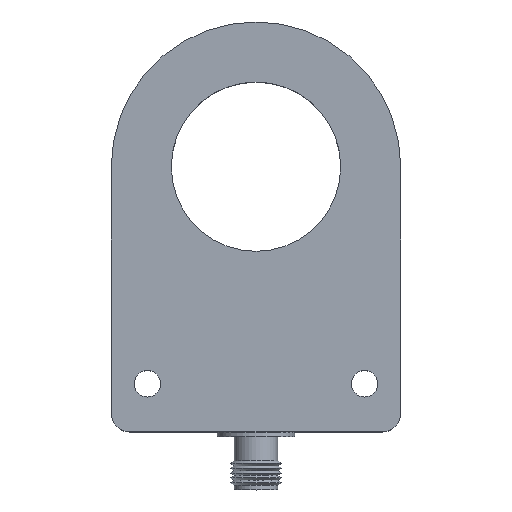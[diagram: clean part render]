
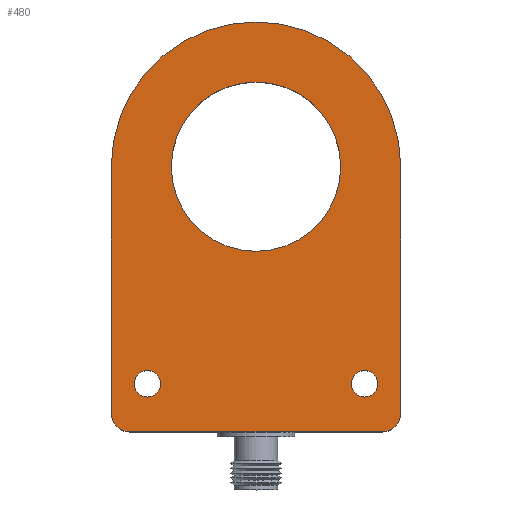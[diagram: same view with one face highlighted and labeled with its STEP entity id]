
A CAD part, top view. The second image highlights one B-rep face of the part: STEP entity #480.
In plain terms, the highlighted planar face has unit normal (0, 0, 1).
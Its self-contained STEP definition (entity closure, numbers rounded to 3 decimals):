
#39 = VERTEX_POINT('',#40);
#40 = CARTESIAN_POINT('',(-30.,0.,20.));
#47 = PLANE('',#48);
#48 = AXIS2_PLACEMENT_3D('',#49,#50,#51);
#49 = CARTESIAN_POINT('',(-30.,0.,0.));
#50 = DIRECTION('',(1.,0.,0.));
#51 = DIRECTION('',(0.,-1.,0.));
#59 = CYLINDRICAL_SURFACE('',#60,30.);
#60 = AXIS2_PLACEMENT_3D('',#61,#62,#63);
#61 = CARTESIAN_POINT('',(0.,0.,0.));
#62 = DIRECTION('',(-0.,-0.,-1.));
#63 = DIRECTION('',(1.,0.,0.));
#71 = EDGE_CURVE('',#39,#72,#74,.T.);
#72 = VERTEX_POINT('',#73);
#73 = CARTESIAN_POINT('',(-30.,-51.,20.));
#74 = SURFACE_CURVE('',#75,(#79,#86),.PCURVE_S1.);
#75 = LINE('',#76,#77);
#76 = CARTESIAN_POINT('',(-30.,0.,20.));
#77 = VECTOR('',#78,1.);
#78 = DIRECTION('',(0.,-1.,0.));
#79 = PCURVE('',#47,#80);
#80 = DEFINITIONAL_REPRESENTATION('',(#81),#85);
#81 = LINE('',#82,#83);
#82 = CARTESIAN_POINT('',(0.,-20.));
#83 = VECTOR('',#84,1.);
#84 = DIRECTION('',(1.,0.));
#85 = ( GEOMETRIC_REPRESENTATION_CONTEXT(2) 
PARAMETRIC_REPRESENTATION_CONTEXT() REPRESENTATION_CONTEXT('2D SPACE',''
  ) );
#86 = PCURVE('',#87,#92);
#87 = PLANE('',#88);
#88 = AXIS2_PLACEMENT_3D('',#89,#90,#91);
#89 = CARTESIAN_POINT('',(0.,-17.809,20.));
#90 = DIRECTION('',(0.,0.,1.));
#91 = DIRECTION('',(1.,0.,0.));
#92 = DEFINITIONAL_REPRESENTATION('',(#93),#97);
#93 = LINE('',#94,#95);
#94 = CARTESIAN_POINT('',(-30.,17.809));
#95 = VECTOR('',#96,1.);
#96 = DIRECTION('',(0.,-1.));
#97 = ( GEOMETRIC_REPRESENTATION_CONTEXT(2) 
PARAMETRIC_REPRESENTATION_CONTEXT() REPRESENTATION_CONTEXT('2D SPACE',''
  ) );
#115 = CYLINDRICAL_SURFACE('',#116,4.);
#116 = AXIS2_PLACEMENT_3D('',#117,#118,#119);
#117 = CARTESIAN_POINT('',(-26.,-51.,0.));
#118 = DIRECTION('',(-0.,-0.,-1.));
#119 = DIRECTION('',(1.,0.,0.));
#159 = VERTEX_POINT('',#160);
#160 = CARTESIAN_POINT('',(30.,0.,20.));
#174 = PLANE('',#175);
#175 = AXIS2_PLACEMENT_3D('',#176,#177,#178);
#176 = CARTESIAN_POINT('',(30.,-51.,0.));
#177 = DIRECTION('',(-1.,0.,0.));
#178 = DIRECTION('',(0.,1.,0.));
#186 = EDGE_CURVE('',#159,#39,#187,.T.);
#187 = SURFACE_CURVE('',#188,(#193,#200),.PCURVE_S1.);
#188 = CIRCLE('',#189,30.);
#189 = AXIS2_PLACEMENT_3D('',#190,#191,#192);
#190 = CARTESIAN_POINT('',(0.,0.,20.));
#191 = DIRECTION('',(0.,0.,1.));
#192 = DIRECTION('',(1.,0.,0.));
#193 = PCURVE('',#59,#194);
#194 = DEFINITIONAL_REPRESENTATION('',(#195),#199);
#195 = LINE('',#196,#197);
#196 = CARTESIAN_POINT('',(-0.,-20.));
#197 = VECTOR('',#198,1.);
#198 = DIRECTION('',(-1.,0.));
#199 = ( GEOMETRIC_REPRESENTATION_CONTEXT(2) 
PARAMETRIC_REPRESENTATION_CONTEXT() REPRESENTATION_CONTEXT('2D SPACE',''
  ) );
#200 = PCURVE('',#87,#201);
#201 = DEFINITIONAL_REPRESENTATION('',(#202),#206);
#202 = CIRCLE('',#203,30.);
#203 = AXIS2_PLACEMENT_2D('',#204,#205);
#204 = CARTESIAN_POINT('',(0.,17.809));
#205 = DIRECTION('',(1.,0.));
#206 = ( GEOMETRIC_REPRESENTATION_CONTEXT(2) 
PARAMETRIC_REPRESENTATION_CONTEXT() REPRESENTATION_CONTEXT('2D SPACE',''
  ) );
#235 = EDGE_CURVE('',#72,#236,#238,.T.);
#236 = VERTEX_POINT('',#237);
#237 = CARTESIAN_POINT('',(-26.,-55.,20.));
#238 = SURFACE_CURVE('',#239,(#244,#251),.PCURVE_S1.);
#239 = CIRCLE('',#240,4.);
#240 = AXIS2_PLACEMENT_3D('',#241,#242,#243);
#241 = CARTESIAN_POINT('',(-26.,-51.,20.));
#242 = DIRECTION('',(0.,0.,1.));
#243 = DIRECTION('',(1.,0.,0.));
#244 = PCURVE('',#115,#245);
#245 = DEFINITIONAL_REPRESENTATION('',(#246),#250);
#246 = LINE('',#247,#248);
#247 = CARTESIAN_POINT('',(-0.,-20.));
#248 = VECTOR('',#249,1.);
#249 = DIRECTION('',(-1.,0.));
#250 = ( GEOMETRIC_REPRESENTATION_CONTEXT(2) 
PARAMETRIC_REPRESENTATION_CONTEXT() REPRESENTATION_CONTEXT('2D SPACE',''
  ) );
#251 = PCURVE('',#87,#252);
#252 = DEFINITIONAL_REPRESENTATION('',(#253),#257);
#253 = CIRCLE('',#254,4.);
#254 = AXIS2_PLACEMENT_2D('',#255,#256);
#255 = CARTESIAN_POINT('',(-26.,-33.191));
#256 = DIRECTION('',(1.,0.));
#257 = ( GEOMETRIC_REPRESENTATION_CONTEXT(2) 
PARAMETRIC_REPRESENTATION_CONTEXT() REPRESENTATION_CONTEXT('2D SPACE',''
  ) );
#275 = PLANE('',#276);
#276 = AXIS2_PLACEMENT_3D('',#277,#278,#279);
#277 = CARTESIAN_POINT('',(-26.,-55.,0.));
#278 = DIRECTION('',(0.,1.,0.));
#279 = DIRECTION('',(1.,0.,0.));
#354 = CYLINDRICAL_SURFACE('',#355,4.);
#355 = AXIS2_PLACEMENT_3D('',#356,#357,#358);
#356 = CARTESIAN_POINT('',(26.,-51.,0.));
#357 = DIRECTION('',(-0.,-0.,-1.));
#358 = DIRECTION('',(1.,0.,0.));
#407 = CYLINDRICAL_SURFACE('',#408,2.75);
#408 = AXIS2_PLACEMENT_3D('',#409,#410,#411);
#409 = CARTESIAN_POINT('',(-22.5,-45.,20.));
#410 = DIRECTION('',(0.,0.,1.));
#411 = DIRECTION('',(1.,0.,0.));
#438 = CYLINDRICAL_SURFACE('',#439,2.75);
#439 = AXIS2_PLACEMENT_3D('',#440,#441,#442);
#440 = CARTESIAN_POINT('',(22.5,-45.,20.));
#441 = DIRECTION('',(0.,0.,1.));
#442 = DIRECTION('',(1.,0.,0.));
#469 = CYLINDRICAL_SURFACE('',#470,17.55);
#470 = AXIS2_PLACEMENT_3D('',#471,#472,#473);
#471 = CARTESIAN_POINT('',(0.,0.,20.));
#472 = DIRECTION('',(0.,0.,1.));
#473 = DIRECTION('',(1.,0.,0.));
#480 = ADVANCED_FACE('',(#481,#554,#580,#606),#87,.T.);
#481 = FACE_BOUND('',#482,.T.);
#482 = EDGE_LOOP('',(#483,#484,#485,#508,#532,#553));
#483 = ORIENTED_EDGE('',*,*,#71,.T.);
#484 = ORIENTED_EDGE('',*,*,#235,.T.);
#485 = ORIENTED_EDGE('',*,*,#486,.T.);
#486 = EDGE_CURVE('',#236,#487,#489,.T.);
#487 = VERTEX_POINT('',#488);
#488 = CARTESIAN_POINT('',(26.,-55.,20.));
#489 = SURFACE_CURVE('',#490,(#494,#501),.PCURVE_S1.);
#490 = LINE('',#491,#492);
#491 = CARTESIAN_POINT('',(-26.,-55.,20.));
#492 = VECTOR('',#493,1.);
#493 = DIRECTION('',(1.,0.,0.));
#494 = PCURVE('',#87,#495);
#495 = DEFINITIONAL_REPRESENTATION('',(#496),#500);
#496 = LINE('',#497,#498);
#497 = CARTESIAN_POINT('',(-26.,-37.191));
#498 = VECTOR('',#499,1.);
#499 = DIRECTION('',(1.,0.));
#500 = ( GEOMETRIC_REPRESENTATION_CONTEXT(2) 
PARAMETRIC_REPRESENTATION_CONTEXT() REPRESENTATION_CONTEXT('2D SPACE',''
  ) );
#501 = PCURVE('',#275,#502);
#502 = DEFINITIONAL_REPRESENTATION('',(#503),#507);
#503 = LINE('',#504,#505);
#504 = CARTESIAN_POINT('',(0.,-20.));
#505 = VECTOR('',#506,1.);
#506 = DIRECTION('',(1.,0.));
#507 = ( GEOMETRIC_REPRESENTATION_CONTEXT(2) 
PARAMETRIC_REPRESENTATION_CONTEXT() REPRESENTATION_CONTEXT('2D SPACE',''
  ) );
#508 = ORIENTED_EDGE('',*,*,#509,.T.);
#509 = EDGE_CURVE('',#487,#510,#512,.T.);
#510 = VERTEX_POINT('',#511);
#511 = CARTESIAN_POINT('',(30.,-51.,20.));
#512 = SURFACE_CURVE('',#513,(#518,#525),.PCURVE_S1.);
#513 = CIRCLE('',#514,4.);
#514 = AXIS2_PLACEMENT_3D('',#515,#516,#517);
#515 = CARTESIAN_POINT('',(26.,-51.,20.));
#516 = DIRECTION('',(0.,0.,1.));
#517 = DIRECTION('',(1.,0.,0.));
#518 = PCURVE('',#87,#519);
#519 = DEFINITIONAL_REPRESENTATION('',(#520),#524);
#520 = CIRCLE('',#521,4.);
#521 = AXIS2_PLACEMENT_2D('',#522,#523);
#522 = CARTESIAN_POINT('',(26.,-33.191));
#523 = DIRECTION('',(1.,0.));
#524 = ( GEOMETRIC_REPRESENTATION_CONTEXT(2) 
PARAMETRIC_REPRESENTATION_CONTEXT() REPRESENTATION_CONTEXT('2D SPACE',''
  ) );
#525 = PCURVE('',#354,#526);
#526 = DEFINITIONAL_REPRESENTATION('',(#527),#531);
#527 = LINE('',#528,#529);
#528 = CARTESIAN_POINT('',(-0.,-20.));
#529 = VECTOR('',#530,1.);
#530 = DIRECTION('',(-1.,0.));
#531 = ( GEOMETRIC_REPRESENTATION_CONTEXT(2) 
PARAMETRIC_REPRESENTATION_CONTEXT() REPRESENTATION_CONTEXT('2D SPACE',''
  ) );
#532 = ORIENTED_EDGE('',*,*,#533,.T.);
#533 = EDGE_CURVE('',#510,#159,#534,.T.);
#534 = SURFACE_CURVE('',#535,(#539,#546),.PCURVE_S1.);
#535 = LINE('',#536,#537);
#536 = CARTESIAN_POINT('',(30.,-51.,20.));
#537 = VECTOR('',#538,1.);
#538 = DIRECTION('',(0.,1.,0.));
#539 = PCURVE('',#87,#540);
#540 = DEFINITIONAL_REPRESENTATION('',(#541),#545);
#541 = LINE('',#542,#543);
#542 = CARTESIAN_POINT('',(30.,-33.191));
#543 = VECTOR('',#544,1.);
#544 = DIRECTION('',(0.,1.));
#545 = ( GEOMETRIC_REPRESENTATION_CONTEXT(2) 
PARAMETRIC_REPRESENTATION_CONTEXT() REPRESENTATION_CONTEXT('2D SPACE',''
  ) );
#546 = PCURVE('',#174,#547);
#547 = DEFINITIONAL_REPRESENTATION('',(#548),#552);
#548 = LINE('',#549,#550);
#549 = CARTESIAN_POINT('',(0.,-20.));
#550 = VECTOR('',#551,1.);
#551 = DIRECTION('',(1.,0.));
#552 = ( GEOMETRIC_REPRESENTATION_CONTEXT(2) 
PARAMETRIC_REPRESENTATION_CONTEXT() REPRESENTATION_CONTEXT('2D SPACE',''
  ) );
#553 = ORIENTED_EDGE('',*,*,#186,.T.);
#554 = FACE_BOUND('',#555,.T.);
#555 = EDGE_LOOP('',(#556));
#556 = ORIENTED_EDGE('',*,*,#557,.F.);
#557 = EDGE_CURVE('',#558,#558,#560,.T.);
#558 = VERTEX_POINT('',#559);
#559 = CARTESIAN_POINT('',(-19.75,-45.,20.));
#560 = SURFACE_CURVE('',#561,(#566,#573),.PCURVE_S1.);
#561 = CIRCLE('',#562,2.75);
#562 = AXIS2_PLACEMENT_3D('',#563,#564,#565);
#563 = CARTESIAN_POINT('',(-22.5,-45.,20.));
#564 = DIRECTION('',(0.,0.,1.));
#565 = DIRECTION('',(1.,0.,0.));
#566 = PCURVE('',#87,#567);
#567 = DEFINITIONAL_REPRESENTATION('',(#568),#572);
#568 = CIRCLE('',#569,2.75);
#569 = AXIS2_PLACEMENT_2D('',#570,#571);
#570 = CARTESIAN_POINT('',(-22.5,-27.191));
#571 = DIRECTION('',(1.,0.));
#572 = ( GEOMETRIC_REPRESENTATION_CONTEXT(2) 
PARAMETRIC_REPRESENTATION_CONTEXT() REPRESENTATION_CONTEXT('2D SPACE',''
  ) );
#573 = PCURVE('',#407,#574);
#574 = DEFINITIONAL_REPRESENTATION('',(#575),#579);
#575 = LINE('',#576,#577);
#576 = CARTESIAN_POINT('',(0.,0.));
#577 = VECTOR('',#578,1.);
#578 = DIRECTION('',(1.,0.));
#579 = ( GEOMETRIC_REPRESENTATION_CONTEXT(2) 
PARAMETRIC_REPRESENTATION_CONTEXT() REPRESENTATION_CONTEXT('2D SPACE',''
  ) );
#580 = FACE_BOUND('',#581,.T.);
#581 = EDGE_LOOP('',(#582));
#582 = ORIENTED_EDGE('',*,*,#583,.F.);
#583 = EDGE_CURVE('',#584,#584,#586,.T.);
#584 = VERTEX_POINT('',#585);
#585 = CARTESIAN_POINT('',(25.25,-45.,20.));
#586 = SURFACE_CURVE('',#587,(#592,#599),.PCURVE_S1.);
#587 = CIRCLE('',#588,2.75);
#588 = AXIS2_PLACEMENT_3D('',#589,#590,#591);
#589 = CARTESIAN_POINT('',(22.5,-45.,20.));
#590 = DIRECTION('',(0.,0.,1.));
#591 = DIRECTION('',(1.,0.,0.));
#592 = PCURVE('',#87,#593);
#593 = DEFINITIONAL_REPRESENTATION('',(#594),#598);
#594 = CIRCLE('',#595,2.75);
#595 = AXIS2_PLACEMENT_2D('',#596,#597);
#596 = CARTESIAN_POINT('',(22.5,-27.191));
#597 = DIRECTION('',(1.,0.));
#598 = ( GEOMETRIC_REPRESENTATION_CONTEXT(2) 
PARAMETRIC_REPRESENTATION_CONTEXT() REPRESENTATION_CONTEXT('2D SPACE',''
  ) );
#599 = PCURVE('',#438,#600);
#600 = DEFINITIONAL_REPRESENTATION('',(#601),#605);
#601 = LINE('',#602,#603);
#602 = CARTESIAN_POINT('',(0.,0.));
#603 = VECTOR('',#604,1.);
#604 = DIRECTION('',(1.,0.));
#605 = ( GEOMETRIC_REPRESENTATION_CONTEXT(2) 
PARAMETRIC_REPRESENTATION_CONTEXT() REPRESENTATION_CONTEXT('2D SPACE',''
  ) );
#606 = FACE_BOUND('',#607,.T.);
#607 = EDGE_LOOP('',(#608));
#608 = ORIENTED_EDGE('',*,*,#609,.F.);
#609 = EDGE_CURVE('',#610,#610,#612,.T.);
#610 = VERTEX_POINT('',#611);
#611 = CARTESIAN_POINT('',(17.55,0.,20.));
#612 = SURFACE_CURVE('',#613,(#618,#625),.PCURVE_S1.);
#613 = CIRCLE('',#614,17.55);
#614 = AXIS2_PLACEMENT_3D('',#615,#616,#617);
#615 = CARTESIAN_POINT('',(0.,0.,20.));
#616 = DIRECTION('',(0.,0.,1.));
#617 = DIRECTION('',(1.,0.,0.));
#618 = PCURVE('',#87,#619);
#619 = DEFINITIONAL_REPRESENTATION('',(#620),#624);
#620 = CIRCLE('',#621,17.55);
#621 = AXIS2_PLACEMENT_2D('',#622,#623);
#622 = CARTESIAN_POINT('',(0.,17.809));
#623 = DIRECTION('',(1.,0.));
#624 = ( GEOMETRIC_REPRESENTATION_CONTEXT(2) 
PARAMETRIC_REPRESENTATION_CONTEXT() REPRESENTATION_CONTEXT('2D SPACE',''
  ) );
#625 = PCURVE('',#469,#626);
#626 = DEFINITIONAL_REPRESENTATION('',(#627),#631);
#627 = LINE('',#628,#629);
#628 = CARTESIAN_POINT('',(0.,0.));
#629 = VECTOR('',#630,1.);
#630 = DIRECTION('',(1.,0.));
#631 = ( GEOMETRIC_REPRESENTATION_CONTEXT(2) 
PARAMETRIC_REPRESENTATION_CONTEXT() REPRESENTATION_CONTEXT('2D SPACE',''
  ) );
